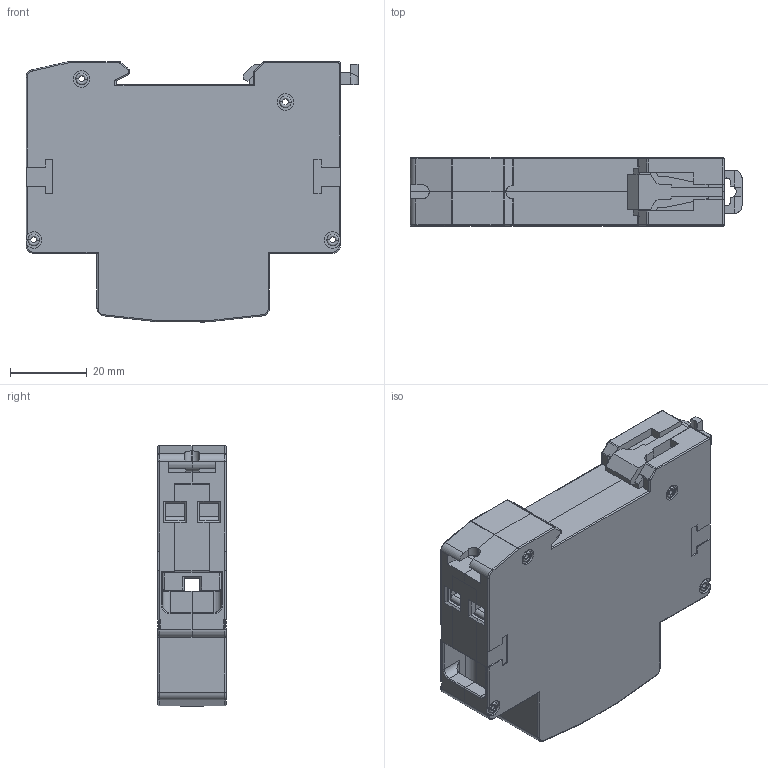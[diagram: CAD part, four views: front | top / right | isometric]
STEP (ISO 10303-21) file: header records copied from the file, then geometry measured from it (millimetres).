
FILE_DESCRIPTION (( 'STEP AP203' ), '1' );
FILE_NAME ('AUC6-20.STEP', '2024-06-25T02:10:17', ( '微软用户' ), ( '微软中国' ), 'SwSTEP 2.0', 'SolidWorks 2023', '' );
FILE_SCHEMA (( 'CONFIG_CONTROL_DESIGN' ));
Length unit declared in the file: millimetre
Products named in the file (15): AUC6-20上盖; A铆钉_8AU.967.0012.03 KBE 铆钉; AAm3_hyb1; AUC6-20; A20180619AUB1卡扣模具更改; A接线板短; A大接线框; Ajxb_hyb1; A大螺丝头; AUC6-20底座; AATOU-MIN-BAO-SHI-1; AA接线板长; AAUC1-20中座; A线圈接线板; A接线夹
Assembly tree (31 placements, depth 2):
  AUC6-20
    Ajxb_hyb1  x2
    A线圈接线板  x2
    AAm3_hyb1  x2
    A大接线框  x4
    A接线夹  x4
    A大螺丝头  x4
    AAUC1-20中座
    A接线板短  x2
    A20180619AUB1卡扣模具更改
    A铆钉_8AU.967.0012.03 KBE 铆钉  x4
    AATOU-MIN-BAO-SHI-1
    AA接线板长  x2
    AUC6-20上盖
    AUC6-20底座
Bounding box: 86.6 x 17.8 x 67.96 mm (x, y, z)
Volume: 27132.5 mm3; surface area: 44863.2 mm2
Topology: 32 solids, 32 shells, 3052 faces, 8077 edges, 5022 vertices
Faces by surface type: plane 1724, cylinder 966, bspline 140, torus 126, sphere 58, cone 38
Entity records: 69827 total; most frequent: CARTESIAN_POINT 15174, ORIENTED_EDGE 11212, DIRECTION 10762, EDGE_CURVE 5606, LINE 3956, VECTOR 3956, VERTEX_POINT 3521, AXIS2_PLACEMENT_3D 3403
